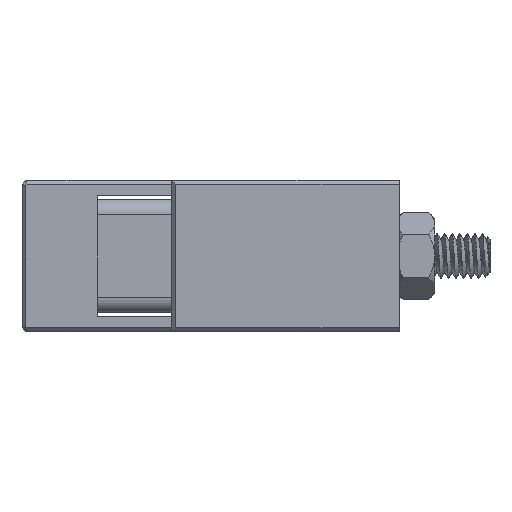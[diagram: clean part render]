
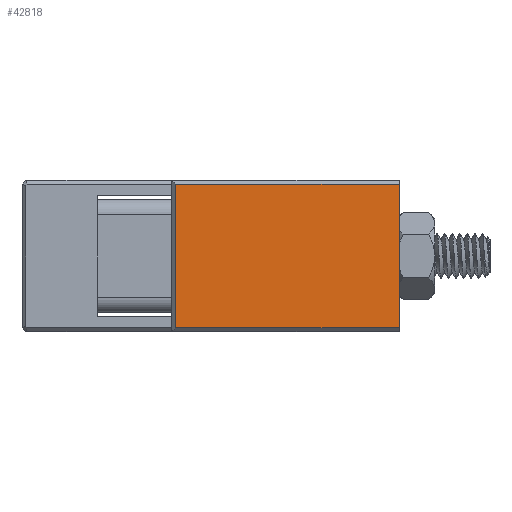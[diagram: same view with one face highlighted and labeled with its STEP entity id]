
A CAD part, left-side view. The second image highlights one B-rep face of the part: STEP entity #42818.
In plain terms, the highlighted planar face has unit normal (-1, 0, 0).
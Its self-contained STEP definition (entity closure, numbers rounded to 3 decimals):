
#2455 = VECTOR ( 'NONE', #95568, 1000. ) ;
#2851 = ORIENTED_EDGE ( 'NONE', *, *, #103113, .T. ) ;
#4863 = CARTESIAN_POINT ( 'NONE',  ( -113.3, 7.821, 9.5 ) ) ;
#5240 = PLANE ( 'NONE',  #90465 ) ;
#8063 = VECTOR ( 'NONE', #81381, 1000. ) ;
#11208 = CARTESIAN_POINT ( 'NONE',  ( -113.3, -41.984, 9.5 ) ) ;
#12408 = EDGE_CURVE ( 'NONE', #39662, #35456, #52943, .T. ) ;
#15717 = DIRECTION ( 'NONE',  ( -1., 0., 0. ) ) ;
#20761 = VECTOR ( 'NONE', #93550, 1000. ) ;
#27243 = ORIENTED_EDGE ( 'NONE', *, *, #49530, .T. ) ;
#30301 = ORIENTED_EDGE ( 'NONE', *, *, #94599, .F. ) ;
#35456 = VERTEX_POINT ( 'NONE', #4863 ) ;
#38740 = CARTESIAN_POINT ( 'NONE',  ( -113.3, -21.829, 9.5 ) ) ;
#39662 = VERTEX_POINT ( 'NONE', #38740 ) ;
#40227 = VECTOR ( 'NONE', #79233, 1000. ) ;
#42818 = ADVANCED_FACE ( 'NONE', ( #95901 ), #5240, .T. ) ;
#46042 = LINE ( 'NONE', #78873, #2455 ) ;
#46382 = CARTESIAN_POINT ( 'NONE',  ( -113.3, 7.821, -10. ) ) ;
#49034 = VERTEX_POINT ( 'NONE', #95623 ) ;
#49530 = EDGE_CURVE ( 'NONE', #82892, #49034, #82342, .T. ) ;
#50098 = CARTESIAN_POINT ( 'NONE',  ( -113.3, 7.821, -9.5 ) ) ;
#52943 = LINE ( 'NONE', #11208, #8063 ) ;
#53136 = EDGE_LOOP ( 'NONE', ( #2851, #27243, #30301, #89302 ) ) ;
#55443 = DIRECTION ( 'NONE',  ( 0., 0., 1. ) ) ;
#70310 = CARTESIAN_POINT ( 'NONE',  ( -113.3, -41.984, -9.5 ) ) ;
#73034 = LINE ( 'NONE', #46382, #20761 ) ;
#76839 = CARTESIAN_POINT ( 'NONE',  ( -113.3, -41.984, -10. ) ) ;
#78873 = CARTESIAN_POINT ( 'NONE',  ( -113.3, -21.829, -10. ) ) ;
#79233 = DIRECTION ( 'NONE',  ( 0., -1., 0. ) ) ;
#81381 = DIRECTION ( 'NONE',  ( 0., 1., 0. ) ) ;
#82342 = LINE ( 'NONE', #70310, #40227 ) ;
#82892 = VERTEX_POINT ( 'NONE', #50098 ) ;
#89302 = ORIENTED_EDGE ( 'NONE', *, *, #12408, .T. ) ;
#90465 = AXIS2_PLACEMENT_3D ( 'NONE', #76839, #15717, #55443 ) ;
#93550 = DIRECTION ( 'NONE',  ( 0., 0., -1. ) ) ;
#94599 = EDGE_CURVE ( 'NONE', #39662, #49034, #46042, .T. ) ;
#95568 = DIRECTION ( 'NONE',  ( 0., 0., -1. ) ) ;
#95623 = CARTESIAN_POINT ( 'NONE',  ( -113.3, -21.829, -9.5 ) ) ;
#95901 = FACE_OUTER_BOUND ( 'NONE', #53136, .T. ) ;
#103113 = EDGE_CURVE ( 'NONE', #35456, #82892, #73034, .T. ) ;
